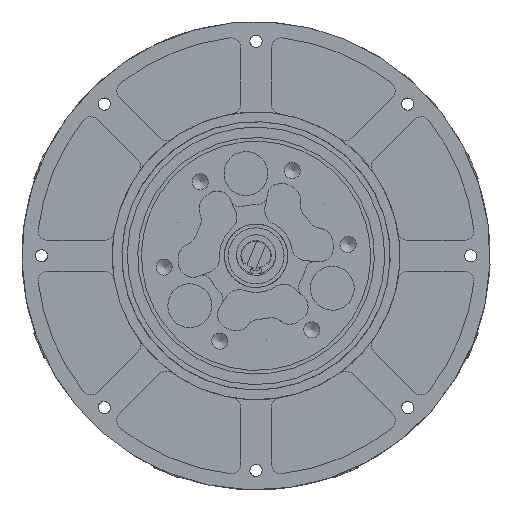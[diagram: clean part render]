
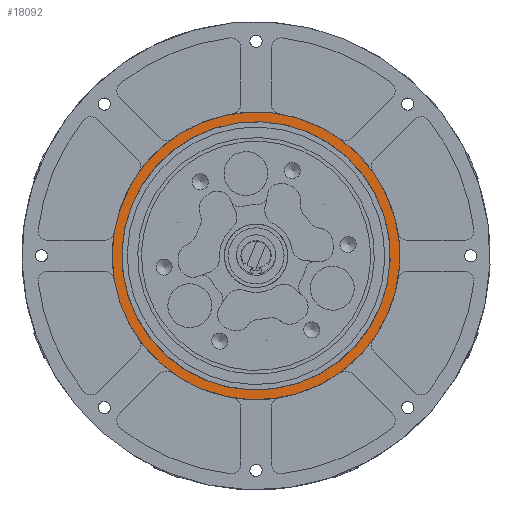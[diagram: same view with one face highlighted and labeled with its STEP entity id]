
A CAD part, front view. The second image highlights one B-rep face of the part: STEP entity #18092.
In plain terms, the highlighted planar face has unit normal (0, -1, 0).
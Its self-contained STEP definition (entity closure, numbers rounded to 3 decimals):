
#1465 = DIRECTION ( 'NONE',  ( 0., -1., 0. ) ) ;
#1759 = FACE_BOUND ( 'NONE', #12512, .T. ) ;
#2783 = EDGE_CURVE ( 'NONE', #24486, #24486, #8747, .T. ) ;
#4344 = AXIS2_PLACEMENT_3D ( 'NONE', #7740, #19142, #16942 ) ;
#5429 = VERTEX_POINT ( 'NONE', #23396 ) ;
#7740 = CARTESIAN_POINT ( 'NONE',  ( 0., -1.3, 0. ) ) ;
#8747 = CIRCLE ( 'NONE', #18548, 29.5 ) ;
#12045 = ORIENTED_EDGE ( 'NONE', *, *, #2783, .T. ) ;
#12254 = EDGE_LOOP ( 'NONE', ( #12045 ) ) ;
#12472 = CARTESIAN_POINT ( 'NONE',  ( 0., -1.3, 0. ) ) ;
#12512 = EDGE_LOOP ( 'NONE', ( #14973 ) ) ;
#13710 = AXIS2_PLACEMENT_3D ( 'NONE', #12472, #1465, #14938 ) ;
#14938 = DIRECTION ( 'NONE',  ( 0., 0., -1. ) ) ;
#14973 = ORIENTED_EDGE ( 'NONE', *, *, #28316, .F. ) ;
#16066 = CARTESIAN_POINT ( 'NONE',  ( 0., -1.3, 0. ) ) ;
#16834 = FACE_OUTER_BOUND ( 'NONE', #12254, .T. ) ;
#16942 = DIRECTION ( 'NONE',  ( 0., 0., -1. ) ) ;
#16969 = PLANE ( 'NONE',  #13710 ) ;
#18092 = ADVANCED_FACE ( 'NONE', ( #1759, #16834 ), #16969, .T. ) ;
#18548 = AXIS2_PLACEMENT_3D ( 'NONE', #16066, #27179, #25004 ) ;
#19142 = DIRECTION ( 'NONE',  ( 0., -1., 0. ) ) ;
#22408 = CARTESIAN_POINT ( 'NONE',  ( 0., -1.3, -29.5 ) ) ;
#23396 = CARTESIAN_POINT ( 'NONE',  ( 0., -1.3, -27.5 ) ) ;
#24486 = VERTEX_POINT ( 'NONE', #22408 ) ;
#24890 = CIRCLE ( 'NONE', #4344, 27.5 ) ;
#25004 = DIRECTION ( 'NONE',  ( 0., 0., -1. ) ) ;
#27179 = DIRECTION ( 'NONE',  ( 0., -1., 0. ) ) ;
#28316 = EDGE_CURVE ( 'NONE', #5429, #5429, #24890, .T. ) ;
